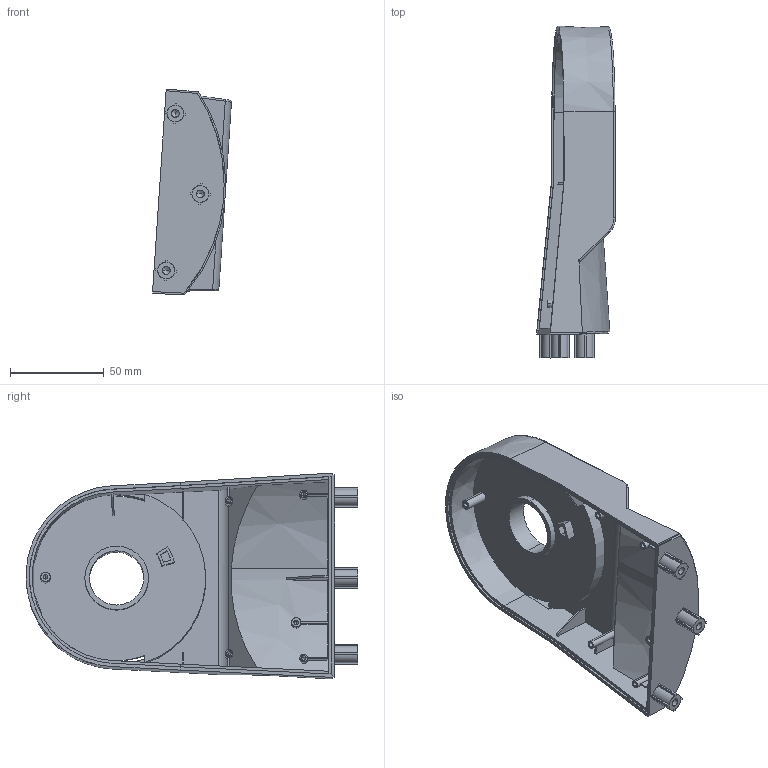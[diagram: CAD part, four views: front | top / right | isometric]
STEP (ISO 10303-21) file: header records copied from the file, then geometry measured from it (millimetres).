
FILE_DESCRIPTION (( 'STEP AP203' ), '1' );
FILE_NAME ('branche d''équilibrage_2_Défaut_sldprt.STEP', '2018-04-06T14:28:58', ( '' ), ( '' ), 'SwSTEP 2.0', 'SolidWorks 2013', '' );
FILE_SCHEMA (( 'CONFIG_CONTROL_DESIGN' ));
Length unit declared in the file: millimetre
Products named in the file (1): branche d''équilibrage_2_Défaut_sldprt
Bounding box: 42.16 x 177.41 x 110.07 mm (x, y, z)
Volume: 89672.3 mm3; surface area: 66134.7 mm2
Topology: 1 solids, 1 shells, 240 faces, 686 edges, 444 vertices
Faces by surface type: plane 129, cylinder 64, cone 34, bspline 13
Entity records: 11176 total; most frequent: CARTESIAN_POINT 5285, ORIENTED_EDGE 1330, DIRECTION 1013, EDGE_CURVE 665, VERTEX_POINT 444, VECTOR 405, LINE 405, AXIS2_PLACEMENT_3D 304
